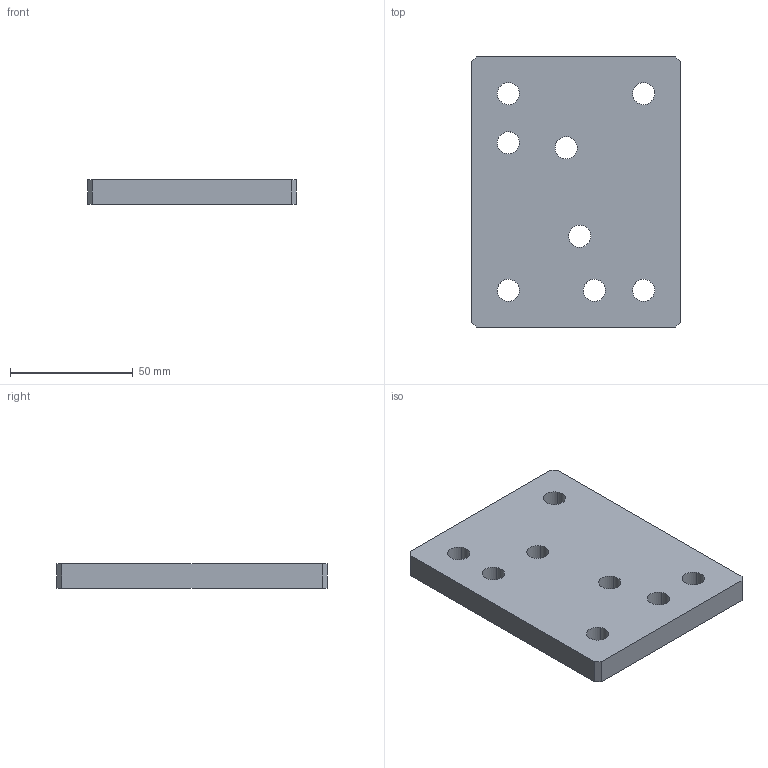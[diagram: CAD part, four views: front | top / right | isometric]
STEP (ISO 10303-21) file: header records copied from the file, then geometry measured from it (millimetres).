
FILE_DESCRIPTION(('CATIA V5 STEP Exchange','CAx-IF Rec.Pracs.--- Model Styling and Organization---1.5--- 2016-08-15','CAx-IF Rec.Pracs.---Supplemental Geometry---1.0---2011-11-01','CAx-IF Rec.Pracs.--- Composite Materials ---1.1---2010-07-15','CAx-IF Rec.Pracs.---External References---2.1---2005-01-19'),'2;1');
FILE_NAME('E:\WAT\Sprezarka\122_00_00_Tlocznik2\Tlocznik2_KPL\Tlocznik2_stp\122_03_52_Przekladka.stp','2023-08-01T08:40:10+00:00',('none'),('none'),'CATIA Version 5-6 Release 2022 SP3','CATIA V5 STEP AP214 v2','none');
FILE_SCHEMA(('AUTOMOTIVE_DESIGN { 1 0 10303 214 1 1 1 1 }'));
Length unit declared in the file: millimetre
Products named in the file (1): 122_03_52_Przekladka
Bounding box: 85 x 110 x 10 mm (x, y, z)
Volume: 88330.6 mm3; surface area: 23781.2 mm2
Topology: 1 solids, 1 shells, 26 faces, 72 edges, 48 vertices
Faces by surface type: cylinder 16, plane 10
Entity records: 870 total; most frequent: ORIENTED_EDGE 144, CARTESIAN_POINT 139, DIRECTION 108, EDGE_CURVE 72, AXIS2_PLACEMENT_3D 51, VERTEX_POINT 48, EDGE_LOOP 42, VECTOR 40
